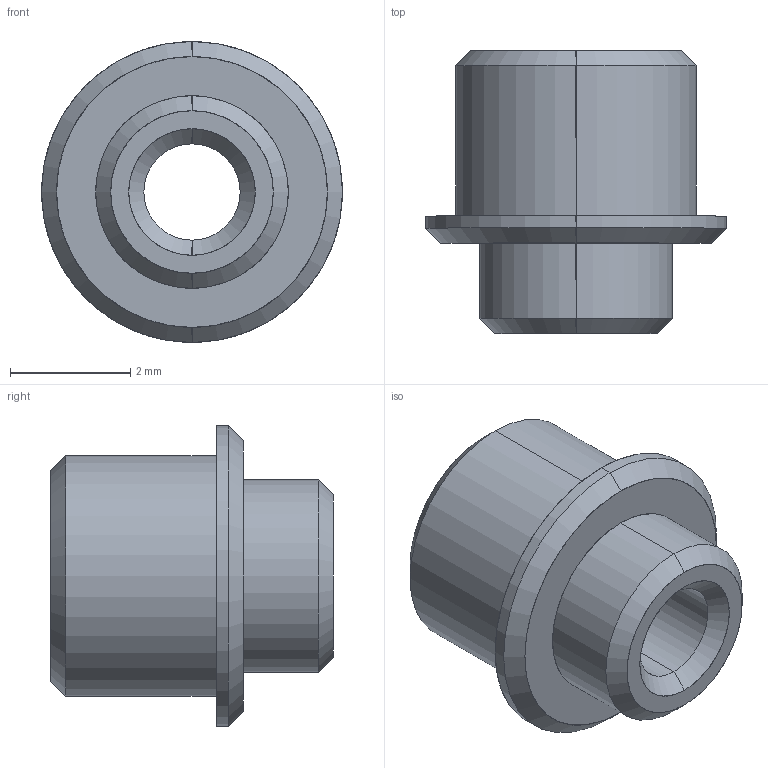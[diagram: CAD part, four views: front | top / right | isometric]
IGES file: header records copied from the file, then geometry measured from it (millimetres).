
Start section: SolidWorks IGES file using analytic representation for surfaces
Global section: file name: C:\Documents and Settings\Administrator\桌面\MINIPCIE6003-Rt52Gf-STANDOFF.IGS,1; native system: 5HSolidWorks 2008; preprocessor: SolidWorks 2008; author: Administrator; date: 131115.135943; units: millimetre
Bounding box: 5 x 4.7 x 5 mm (x, y, z)
Surface area: 108.4 mm2 (no closed solid volume)
Topology: 0 solids, 0 shells, 22 faces, 328 edges, 328 vertices
Faces by surface type: revolution 18, bspline 4
